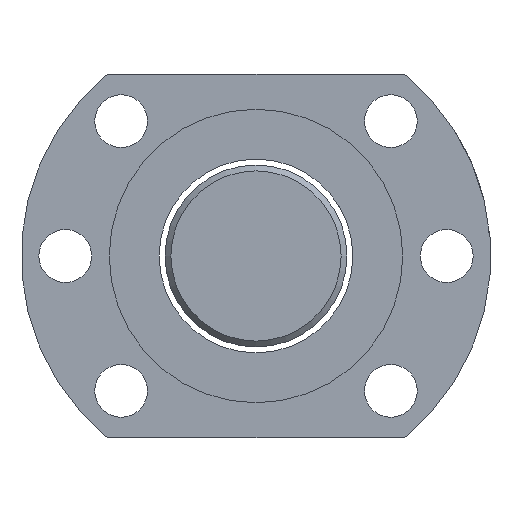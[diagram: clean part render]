
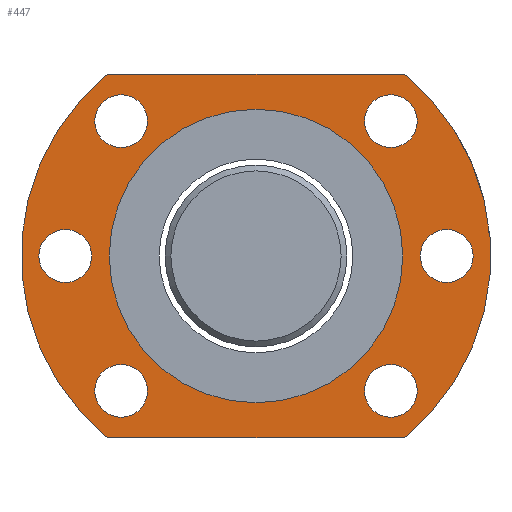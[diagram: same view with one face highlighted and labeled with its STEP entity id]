
A CAD part, left-side view. The second image highlights one B-rep face of the part: STEP entity #447.
In plain terms, the highlighted planar face has unit normal (-1, 0, 0).
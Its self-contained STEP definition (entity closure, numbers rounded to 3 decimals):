
#63=LINE('',#709,#71);
#68=LINE('',#751,#76);
#71=VECTOR('',#591,1000.);
#76=VECTOR('',#604,1000.);
#81=PLANE('',#518);
#121=ORIENTED_EDGE('',*,*,#186,.T.);
#122=ORIENTED_EDGE('',*,*,#190,.T.);
#123=ORIENTED_EDGE('',*,*,#192,.F.);
#124=ORIENTED_EDGE('',*,*,#194,.F.);
#125=ORIENTED_EDGE('',*,*,#196,.F.);
#126=ORIENTED_EDGE('',*,*,#212,.T.);
#127=ORIENTED_EDGE('',*,*,#208,.T.);
#128=ORIENTED_EDGE('',*,*,#207,.T.);
#129=ORIENTED_EDGE('',*,*,#197,.T.);
#130=ORIENTED_EDGE('',*,*,#213,.F.);
#131=ORIENTED_EDGE('',*,*,#188,.T.);
#186=EDGE_CURVE('',#234,#234,#274,.T.);
#188=EDGE_CURVE('',#236,#236,#276,.T.);
#190=EDGE_CURVE('',#238,#238,#278,.T.);
#192=EDGE_CURVE('',#240,#240,#280,.T.);
#194=EDGE_CURVE('',#242,#242,#282,.T.);
#196=EDGE_CURVE('',#244,#244,#284,.T.);
#197=EDGE_CURVE('',#245,#246,#63,.T.);
#207=EDGE_CURVE('',#254,#245,#286,.T.);
#208=EDGE_CURVE('',#255,#254,#68,.T.);
#212=EDGE_CURVE('',#246,#255,#288,.T.);
#213=EDGE_CURVE('',#257,#257,#289,.T.);
#234=VERTEX_POINT('',#682);
#236=VERTEX_POINT('',#687);
#238=VERTEX_POINT('',#692);
#240=VERTEX_POINT('',#697);
#242=VERTEX_POINT('',#702);
#244=VERTEX_POINT('',#707);
#245=VERTEX_POINT('',#710);
#246=VERTEX_POINT('',#711);
#254=VERTEX_POINT('',#747);
#255=VERTEX_POINT('',#752);
#257=VERTEX_POINT('',#761);
#274=CIRCLE('',#494,4.5);
#276=CIRCLE('',#497,4.5);
#278=CIRCLE('',#500,4.5);
#280=CIRCLE('',#503,4.5);
#282=CIRCLE('',#506,4.5);
#284=CIRCLE('',#509,4.5);
#286=CIRCLE('',#513,40.);
#288=CIRCLE('',#517,40.);
#289=CIRCLE('',#519,25.);
#319=EDGE_LOOP('',(#121));
#320=EDGE_LOOP('',(#122));
#321=EDGE_LOOP('',(#123));
#322=EDGE_LOOP('',(#124));
#323=EDGE_LOOP('',(#125));
#324=EDGE_LOOP('',(#126,#127,#128,#129));
#325=EDGE_LOOP('',(#130));
#326=EDGE_LOOP('',(#131));
#379=FACE_BOUND('',#319,.T.);
#380=FACE_BOUND('',#320,.T.);
#381=FACE_BOUND('',#321,.T.);
#382=FACE_BOUND('',#322,.T.);
#383=FACE_BOUND('',#323,.T.);
#384=FACE_BOUND('',#324,.T.);
#385=FACE_BOUND('',#325,.T.);
#386=FACE_BOUND('',#326,.T.);
#447=ADVANCED_FACE('',(#379,#380,#381,#382,#383,#384,#385,#386),#81,.T.);
#494=AXIS2_PLACEMENT_3D('',#681,#557,#558);
#497=AXIS2_PLACEMENT_3D('',#686,#563,#564);
#500=AXIS2_PLACEMENT_3D('',#691,#569,#570);
#503=AXIS2_PLACEMENT_3D('',#696,#575,#576);
#506=AXIS2_PLACEMENT_3D('',#701,#581,#582);
#509=AXIS2_PLACEMENT_3D('',#706,#587,#588);
#513=AXIS2_PLACEMENT_3D('',#749,#600,#601);
#517=AXIS2_PLACEMENT_3D('',#758,#611,#612);
#518=AXIS2_PLACEMENT_3D('',#759,#613,#614);
#519=AXIS2_PLACEMENT_3D('',#760,#615,#616);
#557=DIRECTION('',(1.,0.,0.));
#558=DIRECTION('',(0.,0.,1.));
#563=DIRECTION('',(1.,0.,0.));
#564=DIRECTION('',(0.,0.,1.));
#569=DIRECTION('',(1.,0.,0.));
#570=DIRECTION('',(0.,0.,1.));
#575=DIRECTION('',(-1.,0.,0.));
#576=DIRECTION('',(0.,0.,1.));
#581=DIRECTION('',(-1.,0.,0.));
#582=DIRECTION('',(0.,0.,1.));
#587=DIRECTION('',(-1.,0.,0.));
#588=DIRECTION('',(0.,0.,1.));
#591=DIRECTION('',(0.,1.,0.));
#600=DIRECTION('',(-1.,0.,0.));
#601=DIRECTION('',(0.,0.,-1.));
#604=DIRECTION('',(0.,-1.,0.));
#611=DIRECTION('',(-1.,0.,0.));
#612=DIRECTION('',(0.,0.,-1.));
#613=DIRECTION('',(-1.,0.,0.));
#614=DIRECTION('',(0.,0.,-1.));
#615=DIRECTION('',(-1.,0.,0.));
#616=DIRECTION('',(0.,0.,-1.));
#681=CARTESIAN_POINT('',(-363.878,-180.049,25.026));
#682=CARTESIAN_POINT('',(-363.878,-180.049,29.526));
#686=CARTESIAN_POINT('',(-363.878,-189.568,2.045));
#687=CARTESIAN_POINT('',(-363.878,-189.568,6.545));
#691=CARTESIAN_POINT('',(-363.878,-180.049,-20.936));
#692=CARTESIAN_POINT('',(-363.878,-180.049,-16.436));
#696=CARTESIAN_POINT('',(-363.878,-134.087,-20.936));
#697=CARTESIAN_POINT('',(-363.878,-134.087,-16.436));
#701=CARTESIAN_POINT('',(-363.878,-134.087,25.026));
#702=CARTESIAN_POINT('',(-363.878,-134.087,29.526));
#706=CARTESIAN_POINT('',(-363.878,-124.568,2.045));
#707=CARTESIAN_POINT('',(-363.878,-124.568,6.545));
#709=CARTESIAN_POINT('',(-363.878,-182.347,33.045));
#710=CARTESIAN_POINT('',(-363.878,-182.347,33.045));
#711=CARTESIAN_POINT('',(-363.878,-131.79,33.045));
#747=CARTESIAN_POINT('',(-363.878,-182.347,-28.955));
#749=CARTESIAN_POINT('',(-363.878,-157.068,2.045));
#751=CARTESIAN_POINT('',(-363.878,-131.79,-28.955));
#752=CARTESIAN_POINT('',(-363.878,-131.79,-28.955));
#758=CARTESIAN_POINT('',(-363.878,-157.068,2.045));
#759=CARTESIAN_POINT('',(-363.878,-157.068,2.045));
#760=CARTESIAN_POINT('',(-363.878,-157.068,2.045));
#761=CARTESIAN_POINT('',(-363.878,-157.068,-22.955));
